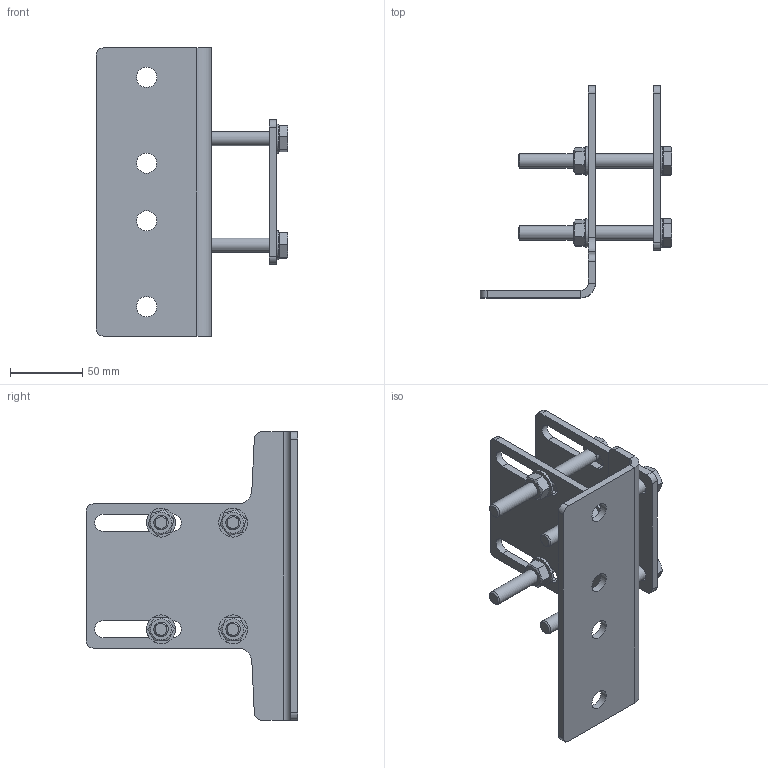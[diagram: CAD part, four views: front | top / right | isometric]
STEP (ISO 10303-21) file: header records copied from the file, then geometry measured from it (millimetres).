
FILE_DESCRIPTION(/* description */ (''),/* implementation_level */ '2;1');
FILE_NAME(/* name */ 'D:\VDV Techniek\Documents\Inventor\_ISP_Products\UDG on SquareTube\UDG SquareTube Clamped\STP\Square tube 40mm-out-Mounting bracket.stp',/* time_stamp */ '2022-12-29T15:43:59+01:00',/* author */ ('jos'),/* organization */ (''),/* preprocessor_version */ 'ST-DEVELOPER v15.2',/* originating_system */ 'Autodesk Inventor 2014',/* authorisation */ '');
FILE_SCHEMA (('AUTOMOTIVE_DESIGN { 1 0 10303 214 3 1 1 }'));
Length unit declared in the file: millimetre
Products named in the file (6): UDG_Mounting_Bracket_universal_HDG; UDG_Counter_Plate_universal_HDG; ISO 4032 - M10DIN EN; DIN 126 - 11; DIN 933 - M10  x 100; Square tube 40mm-out-Mounting bracket
Assembly tree (18 placements, depth 2):
  Square tube 40mm-out-Mounting bracket
    UDG_Mounting_Bracket_universal_HDG
    UDG_Counter_Plate_universal_HDG
    ISO 4032 - M10DIN EN  x4
    DIN 126 - 11  x8
    DIN 933 - M10  x 100  x4
Bounding box: 133.1 x 147 x 200 mm (x, y, z)
Volume: 244482.4 mm3; surface area: 114519.3 mm2
Topology: 18 solids, 18 shells, 228 faces, 504 edges, 320 vertices
Faces by surface type: plane 118, cylinder 62, cone 48
Full cylindrical faces by diameter (mm): 8.376 x4, 9.188 x4, 10 x4, 11 x8, 12 x4, 14 x4, 15.4 x4, 20 x8
Entity records: 3034 total; most frequent: CARTESIAN_POINT 538, DIRECTION 520, ORIENTED_EDGE 434, EDGE_CURVE 217, AXIS2_PLACEMENT_3D 205, VERTEX_POINT 151, EDGE_LOOP 148, LINE 110
